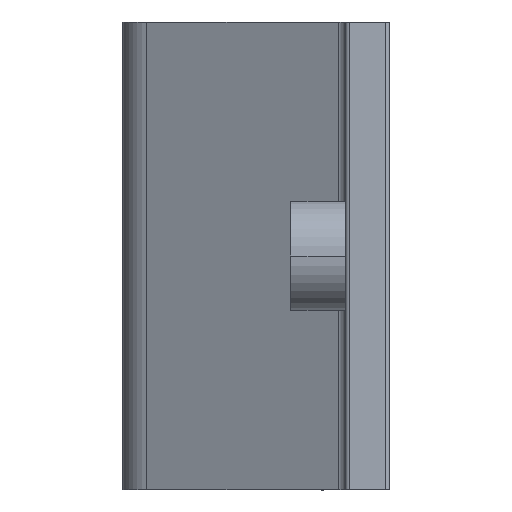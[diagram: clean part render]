
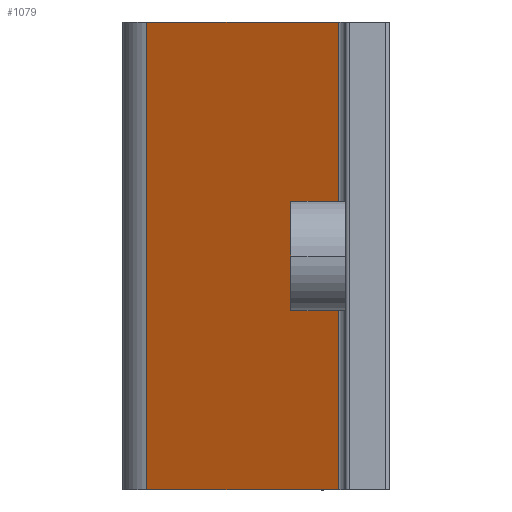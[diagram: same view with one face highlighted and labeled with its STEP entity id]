
A CAD part, front view. The second image highlights one B-rep face of the part: STEP entity #1079.
In plain terms, the highlighted planar face has unit normal (-0.444, -0.896, 0).
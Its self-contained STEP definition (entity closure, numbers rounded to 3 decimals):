
#8 = VECTOR ( 'NONE', #1725, 1000. ) ;
#23 = CARTESIAN_POINT ( 'NONE',  ( -27.186, 35.844, 0. ) ) ;
#57 = VECTOR ( 'NONE', #1538, 1000. ) ;
#73 = CARTESIAN_POINT ( 'NONE',  ( -0.994, 22.881, 64. ) ) ;
#201 = LINE ( 'NONE', #1449, #1414 ) ;
#218 = VECTOR ( 'NONE', #1099, 1000. ) ;
#305 = CARTESIAN_POINT ( 'NONE',  ( -0.994, 22.881, 0. ) ) ;
#381 = CARTESIAN_POINT ( 'NONE',  ( -27.186, 35.844, 0. ) ) ;
#393 = VERTEX_POINT ( 'NONE', #381 ) ;
#399 = EDGE_CURVE ( 'NONE', #393, #1021, #201, .T. ) ;
#460 = VERTEX_POINT ( 'NONE', #1752 ) ;
#638 = EDGE_CURVE ( 'NONE', #1021, #460, #1604, .T. ) ;
#735 = ORIENTED_EDGE ( 'NONE', *, *, #1625, .T. ) ;
#808 = PLANE ( 'NONE',  #1601 ) ;
#1021 = VERTEX_POINT ( 'NONE', #1281 ) ;
#1058 = CARTESIAN_POINT ( 'NONE',  ( -0.994, 22.881, 64. ) ) ;
#1063 = LINE ( 'NONE', #1058, #57 ) ;
#1079 = ADVANCED_FACE ( 'NONE', ( #1458 ), #808, .F. ) ;
#1099 = DIRECTION ( 'NONE',  ( 0.896, -0.444, 0. ) ) ;
#1182 = ORIENTED_EDGE ( 'NONE', *, *, #638, .F. ) ;
#1281 = CARTESIAN_POINT ( 'NONE',  ( -27.186, 35.844, 64. ) ) ;
#1414 = VECTOR ( 'NONE', #1626, 1000. ) ;
#1449 = CARTESIAN_POINT ( 'NONE',  ( -27.186, 35.844, 64. ) ) ;
#1458 = FACE_OUTER_BOUND ( 'NONE', #1931, .T. ) ;
#1484 = DIRECTION ( 'NONE',  ( 0.444, 0.896, 0. ) ) ;
#1504 = EDGE_CURVE ( 'NONE', #393, #1705, #1630, .T. ) ;
#1538 = DIRECTION ( 'NONE',  ( 0., 0., 1. ) ) ;
#1556 = ORIENTED_EDGE ( 'NONE', *, *, #1504, .T. ) ;
#1562 = ORIENTED_EDGE ( 'NONE', *, *, #399, .F. ) ;
#1578 = CARTESIAN_POINT ( 'NONE',  ( -27.186, 35.844, 64. ) ) ;
#1601 = AXIS2_PLACEMENT_3D ( 'NONE', #73, #1484, #1941 ) ;
#1604 = LINE ( 'NONE', #1578, #8 ) ;
#1625 = EDGE_CURVE ( 'NONE', #1705, #460, #1063, .T. ) ;
#1626 = DIRECTION ( 'NONE',  ( 0., 0., 1. ) ) ;
#1630 = LINE ( 'NONE', #23, #218 ) ;
#1705 = VERTEX_POINT ( 'NONE', #305 ) ;
#1725 = DIRECTION ( 'NONE',  ( 0.896, -0.444, 0. ) ) ;
#1752 = CARTESIAN_POINT ( 'NONE',  ( -0.994, 22.881, 64. ) ) ;
#1931 = EDGE_LOOP ( 'NONE', ( #735, #1182, #1562, #1556 ) ) ;
#1941 = DIRECTION ( 'NONE',  ( -0.896, 0.444, 0. ) ) ;
